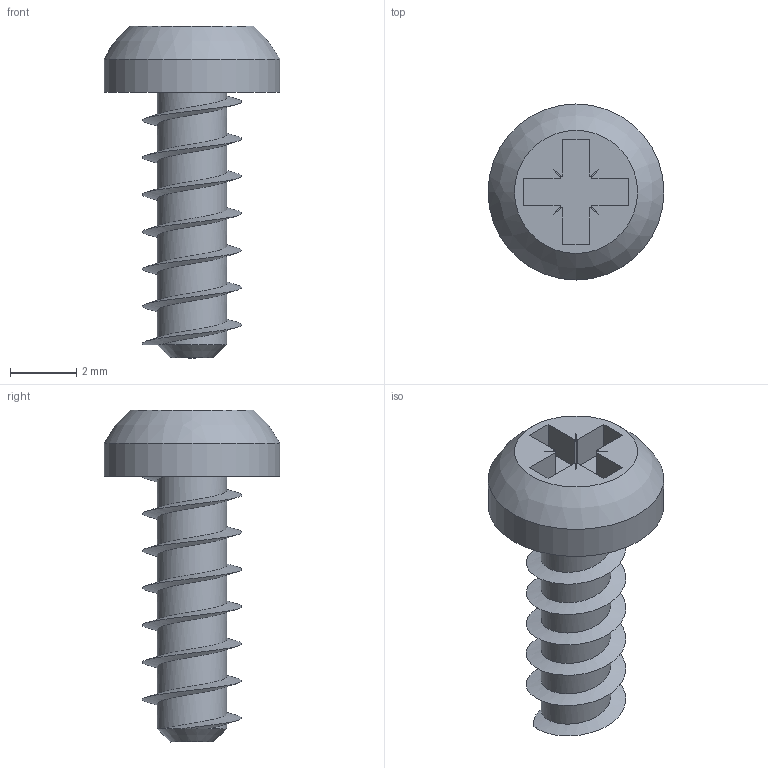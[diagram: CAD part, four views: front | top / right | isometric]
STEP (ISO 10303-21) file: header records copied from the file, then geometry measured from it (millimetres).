
FILE_DESCRIPTION(/* description */ (''),/* implementation_level */ '2;1');
FILE_NAME(/* name */ 'Pan Head Polyfix Plastic Self Tapping Screw - 3mm - 8mm.step',/* time_stamp */ '2025-08-27T20:31:38+03:00',/* author */ (''),/* organization */ (''),/* preprocessor_version */ 'ST-DEVELOPER v20.1',/* originating_system */ 'Autodesk Translation Framework v14.10.0.0',/* authorisation */ '');
FILE_SCHEMA (('AUTOMOTIVE_DESIGN { 1 0 10303 214 3 1 1 }'));
Length unit declared in the file: millimetre
Products named in the file (1): SPP45 BASE
Bounding box: 5.3 x 5.3 x 10 mm (x, y, z)
Volume: 64.3 mm3; surface area: 172.4 mm2
Topology: 1 solids, 1 shells, 50 faces, 140 edges, 94 vertices
Faces by surface type: plane 37, cylinder 9, bspline 2, sphere 1, cone 1
Full cylindrical faces by diameter (mm): 2.09 x6, 5.3 x1
Entity records: 4440 total; most frequent: CARTESIAN_POINT 3142, ORIENTED_EDGE 280, DIRECTION 229, EDGE_CURVE 140, LINE 105, VECTOR 105, VERTEX_POINT 94, AXIS2_PLACEMENT_3D 62
